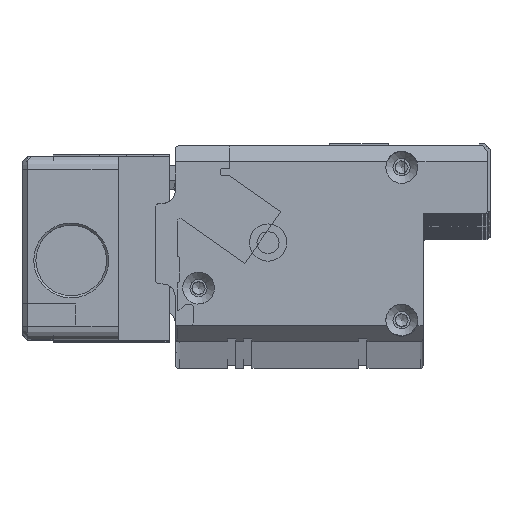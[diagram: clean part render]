
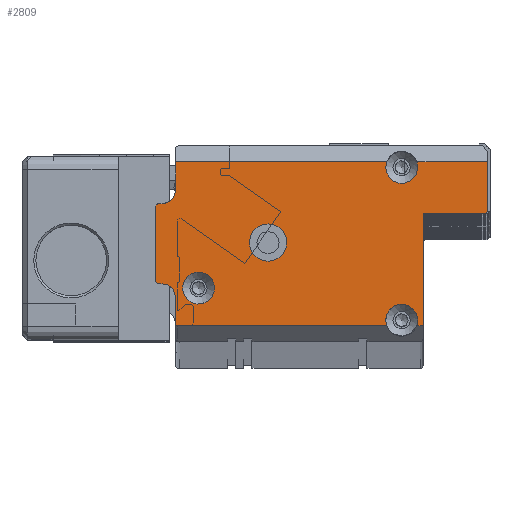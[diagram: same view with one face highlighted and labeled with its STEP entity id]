
A CAD part, top view. The second image highlights one B-rep face of the part: STEP entity #2809.
In plain terms, the highlighted planar face has unit normal (0, 0, 1).
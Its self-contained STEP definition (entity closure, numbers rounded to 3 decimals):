
#1043=FACE_BOUND('',#6670,.T.);
#1044=FACE_BOUND('',#6671,.T.);
#1045=FACE_BOUND('',#6672,.T.);
#1397=CIRCLE('',#30122,3.);
#1398=CIRCLE('',#30123,3.);
#1399=CIRCLE('',#30124,0.5);
#1400=CIRCLE('',#30125,0.5);
#1401=CIRCLE('',#30126,3.);
#1402=CIRCLE('',#30127,2.5);
#1403=CIRCLE('',#30128,0.5);
#1404=CIRCLE('',#30129,0.5);
#1405=CIRCLE('',#30130,2.5);
#1406=CIRCLE('',#30131,3.5);
#2809=ADVANCED_FACE('',(#1043,#1044,#1045),#4218,.T.);
#4218=PLANE('',#30132);
#6670=EDGE_LOOP('',(#14835));
#6671=EDGE_LOOP('',(#14836,#14837,#14838,#14839,#14840,#14841,#14842,#14843,
#14844,#14845,#14846,#14847,#14848,#14849,#14850,#14851,#14852,#14853,#14854,
#14855));
#6672=EDGE_LOOP('',(#14856));
#8476=LINE('',#42706,#11298);
#8477=LINE('',#42708,#11299);
#8478=LINE('',#42712,#11300);
#8479=LINE('',#42716,#11301);
#8480=LINE('',#42718,#11302);
#8481=LINE('',#42722,#11303);
#8482=LINE('',#42724,#11304);
#8483=LINE('',#42728,#11305);
#8484=LINE('',#42732,#11306);
#8485=LINE('',#42736,#11307);
#8486=LINE('',#42740,#11308);
#8487=LINE('',#42742,#11309);
#11298=VECTOR('',#33752,1.);
#11299=VECTOR('',#33753,1.);
#11300=VECTOR('',#33756,1.);
#11301=VECTOR('',#33759,1.);
#11302=VECTOR('',#33760,1.);
#11303=VECTOR('',#33763,1.);
#11304=VECTOR('',#33764,1.);
#11305=VECTOR('',#33767,1.);
#11306=VECTOR('',#33770,1.);
#11307=VECTOR('',#33773,1.);
#11308=VECTOR('',#33776,1.);
#11309=VECTOR('',#33777,1.);
#14835=ORIENTED_EDGE('',*,*,#25953,.T.);
#14836=ORIENTED_EDGE('',*,*,#25954,.T.);
#14837=ORIENTED_EDGE('',*,*,#25955,.T.);
#14838=ORIENTED_EDGE('',*,*,#25956,.T.);
#14839=ORIENTED_EDGE('',*,*,#25957,.T.);
#14840=ORIENTED_EDGE('',*,*,#25958,.T.);
#14841=ORIENTED_EDGE('',*,*,#25959,.T.);
#14842=ORIENTED_EDGE('',*,*,#25960,.T.);
#14843=ORIENTED_EDGE('',*,*,#25961,.T.);
#14844=ORIENTED_EDGE('',*,*,#25962,.T.);
#14845=ORIENTED_EDGE('',*,*,#25963,.T.);
#14846=ORIENTED_EDGE('',*,*,#25964,.T.);
#14847=ORIENTED_EDGE('',*,*,#25965,.T.);
#14848=ORIENTED_EDGE('',*,*,#25966,.T.);
#14849=ORIENTED_EDGE('',*,*,#25967,.T.);
#14850=ORIENTED_EDGE('',*,*,#25968,.T.);
#14851=ORIENTED_EDGE('',*,*,#25969,.T.);
#14852=ORIENTED_EDGE('',*,*,#25970,.T.);
#14853=ORIENTED_EDGE('',*,*,#25971,.T.);
#14854=ORIENTED_EDGE('',*,*,#25972,.T.);
#14855=ORIENTED_EDGE('',*,*,#25973,.T.);
#14856=ORIENTED_EDGE('',*,*,#25974,.T.);
#22829=VERTEX_POINT('',#42702);
#22830=VERTEX_POINT('',#42704);
#22831=VERTEX_POINT('',#42705);
#22832=VERTEX_POINT('',#42707);
#22833=VERTEX_POINT('',#42709);
#22834=VERTEX_POINT('',#42711);
#22835=VERTEX_POINT('',#42713);
#22836=VERTEX_POINT('',#42715);
#22837=VERTEX_POINT('',#42717);
#22838=VERTEX_POINT('',#42719);
#22839=VERTEX_POINT('',#42721);
#22840=VERTEX_POINT('',#42723);
#22841=VERTEX_POINT('',#42725);
#22842=VERTEX_POINT('',#42727);
#22843=VERTEX_POINT('',#42729);
#22844=VERTEX_POINT('',#42731);
#22845=VERTEX_POINT('',#42733);
#22846=VERTEX_POINT('',#42735);
#22847=VERTEX_POINT('',#42737);
#22848=VERTEX_POINT('',#42739);
#22849=VERTEX_POINT('',#42741);
#22850=VERTEX_POINT('',#42744);
#25953=EDGE_CURVE('',#22829,#22829,#1397,.T.);
#25954=EDGE_CURVE('',#22830,#22831,#1398,.T.);
#25955=EDGE_CURVE('',#22831,#22832,#8476,.T.);
#25956=EDGE_CURVE('',#22832,#22833,#8477,.T.);
#25957=EDGE_CURVE('',#22833,#22834,#1399,.T.);
#25958=EDGE_CURVE('',#22834,#22835,#8478,.T.);
#25959=EDGE_CURVE('',#22835,#22836,#1400,.T.);
#25960=EDGE_CURVE('',#22836,#22837,#8479,.T.);
#25961=EDGE_CURVE('',#22837,#22838,#8480,.T.);
#25962=EDGE_CURVE('',#22838,#22839,#1401,.T.);
#25963=EDGE_CURVE('',#22839,#22840,#8481,.T.);
#25964=EDGE_CURVE('',#22840,#22841,#8482,.T.);
#25965=EDGE_CURVE('',#22841,#22842,#1402,.T.);
#25966=EDGE_CURVE('',#22842,#22843,#8483,.T.);
#25967=EDGE_CURVE('',#22843,#22844,#1403,.T.);
#25968=EDGE_CURVE('',#22844,#22845,#8484,.T.);
#25969=EDGE_CURVE('',#22845,#22846,#1404,.T.);
#25970=EDGE_CURVE('',#22846,#22847,#8485,.T.);
#25971=EDGE_CURVE('',#22847,#22848,#1405,.T.);
#25972=EDGE_CURVE('',#22848,#22849,#8486,.T.);
#25973=EDGE_CURVE('',#22849,#22830,#8487,.T.);
#25974=EDGE_CURVE('',#22850,#22850,#1406,.T.);
#30122=AXIS2_PLACEMENT_3D('',#42701,#33748,#33749);
#30123=AXIS2_PLACEMENT_3D('',#42703,#33750,#33751);
#30124=AXIS2_PLACEMENT_3D('',#42710,#33754,#33755);
#30125=AXIS2_PLACEMENT_3D('',#42714,#33757,#33758);
#30126=AXIS2_PLACEMENT_3D('',#42720,#33761,#33762);
#30127=AXIS2_PLACEMENT_3D('',#42726,#33765,#33766);
#30128=AXIS2_PLACEMENT_3D('',#42730,#33768,#33769);
#30129=AXIS2_PLACEMENT_3D('',#42734,#33771,#33772);
#30130=AXIS2_PLACEMENT_3D('',#42738,#33774,#33775);
#30131=AXIS2_PLACEMENT_3D('',#42743,#33778,#33779);
#30132=AXIS2_PLACEMENT_3D('',#42745,#33780,#33781);
#33748=DIRECTION('',(0.,0.,-1.));
#33749=DIRECTION('',(-1.,0.,0.));
#33750=DIRECTION('',(0.,0.,-1.));
#33751=DIRECTION('',(-1.,0.,0.));
#33752=DIRECTION('',(1.,0.,0.));
#33753=DIRECTION('',(0.,1.,0.));
#33754=DIRECTION('',(0.,0.,-1.));
#33755=DIRECTION('',(1.,0.,0.));
#33756=DIRECTION('',(1.,0.,0.));
#33757=DIRECTION('',(0.,0.,1.));
#33758=DIRECTION('',(1.,0.,0.));
#33759=DIRECTION('',(0.,1.,0.));
#33760=DIRECTION('',(-1.,0.,0.));
#33761=DIRECTION('',(0.,0.,-1.));
#33762=DIRECTION('',(-1.,0.,0.));
#33763=DIRECTION('',(-1.,0.,0.));
#33764=DIRECTION('',(0.,-1.,0.));
#33765=DIRECTION('',(0.,0.,-1.));
#33766=DIRECTION('',(1.,0.,0.));
#33767=DIRECTION('',(-1.,0.,0.));
#33768=DIRECTION('',(0.,0.,1.));
#33769=DIRECTION('',(1.,0.,0.));
#33770=DIRECTION('',(0.,-1.,0.));
#33771=DIRECTION('',(0.,0.,1.));
#33772=DIRECTION('',(1.,0.,0.));
#33773=DIRECTION('',(1.,0.,0.));
#33774=DIRECTION('',(0.,0.,-1.));
#33775=DIRECTION('',(1.,0.,0.));
#33776=DIRECTION('',(0.,-1.,0.));
#33777=DIRECTION('',(1.,0.,0.));
#33778=DIRECTION('',(0.,0.,-1.));
#33779=DIRECTION('',(-1.,0.,0.));
#33780=DIRECTION('',(0.,0.,1.));
#33781=DIRECTION('',(-1.,0.,0.));
#42701=CARTESIAN_POINT('',(8.,-26.6,8.));
#42702=CARTESIAN_POINT('',(5.,-26.6,8.));
#42703=CARTESIAN_POINT('',(46.,-32.6,8.));
#42704=CARTESIAN_POINT('',(43.172,-33.6,8.));
#42705=CARTESIAN_POINT('',(48.828,-33.6,8.));
#42706=CARTESIAN_POINT('',(50.,-33.6,8.));
#42707=CARTESIAN_POINT('',(50.,-33.6,8.));
#42708=CARTESIAN_POINT('',(50.,-36.6,8.));
#42709=CARTESIAN_POINT('',(50.,-13.1,8.));
#42710=CARTESIAN_POINT('',(50.5,-13.1,8.));
#42711=CARTESIAN_POINT('',(50.5,-12.6,8.));
#42712=CARTESIAN_POINT('',(50.,-12.6,8.));
#42713=CARTESIAN_POINT('',(61.6,-12.6,8.));
#42714=CARTESIAN_POINT('',(61.6,-12.1,8.));
#42715=CARTESIAN_POINT('',(62.1,-12.1,8.));
#42716=CARTESIAN_POINT('',(62.1,-12.6,8.));
#42717=CARTESIAN_POINT('',(62.1,-3.,8.));
#42718=CARTESIAN_POINT('',(3.7,-3.,8.));
#42719=CARTESIAN_POINT('',(48.828,-3.,8.));
#42720=CARTESIAN_POINT('',(46.,-4.,8.));
#42721=CARTESIAN_POINT('',(43.172,-3.,8.));
#42722=CARTESIAN_POINT('',(3.7,-3.,8.));
#42723=CARTESIAN_POINT('',(3.7,-3.,8.));
#42724=CARTESIAN_POINT('',(3.7,0.,8.));
#42725=CARTESIAN_POINT('',(3.7,-8.3,8.));
#42726=CARTESIAN_POINT('',(1.2,-8.3,8.));
#42727=CARTESIAN_POINT('',(1.2,-10.8,8.));
#42728=CARTESIAN_POINT('',(3.7,-10.8,8.));
#42729=CARTESIAN_POINT('',(0.5,-10.8,8.));
#42730=CARTESIAN_POINT('',(0.5,-11.3,8.));
#42731=CARTESIAN_POINT('',(0.,-11.3,8.));
#42732=CARTESIAN_POINT('',(0.,-10.8,8.));
#42733=CARTESIAN_POINT('',(0.,-25.3,8.));
#42734=CARTESIAN_POINT('',(0.5,-25.3,8.));
#42735=CARTESIAN_POINT('',(0.5,-25.8,8.));
#42736=CARTESIAN_POINT('',(0.,-25.8,8.));
#42737=CARTESIAN_POINT('',(1.2,-25.8,8.));
#42738=CARTESIAN_POINT('',(1.2,-28.3,8.));
#42739=CARTESIAN_POINT('',(3.7,-28.3,8.));
#42740=CARTESIAN_POINT('',(3.7,-25.8,8.));
#42741=CARTESIAN_POINT('',(3.7,-33.6,8.));
#42742=CARTESIAN_POINT('',(50.,-33.6,8.));
#42743=CARTESIAN_POINT('',(21.,-18.1,8.));
#42744=CARTESIAN_POINT('',(17.5,-18.1,8.));
#42745=CARTESIAN_POINT('',(0.,0.,8.));
